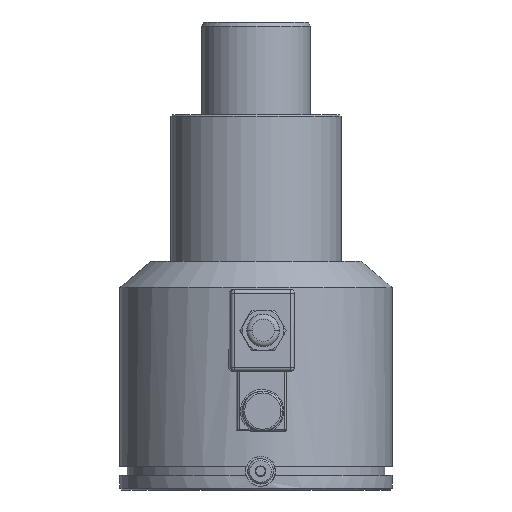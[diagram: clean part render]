
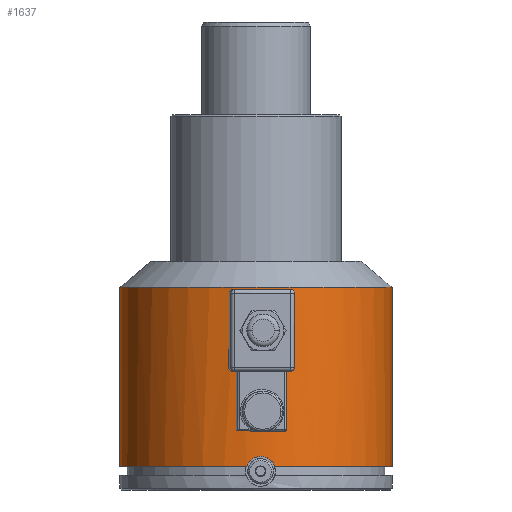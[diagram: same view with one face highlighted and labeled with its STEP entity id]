
A CAD part, front view. The second image highlights one B-rep face of the part: STEP entity #1637.
In plain terms, the highlighted cylindrical face has radius 75 mm (diameter 150 mm), a partial arc.
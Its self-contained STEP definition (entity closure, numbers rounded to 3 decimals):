
#85=CARTESIAN_POINT('Axis2P3D Location',(0.,0.,-9.)) ;
#277=CARTESIAN_POINT('Line Origine',(-75.,0.,-15.5)) ;
#281=CARTESIAN_POINT('Vertex',(-75.,0.,-18.)) ;
#283=CARTESIAN_POINT('Vertex',(-75.,0.,80.735)) ;
#290=CARTESIAN_POINT('Vertex',(75.,0.,80.735)) ;
#293=CARTESIAN_POINT('Line Origine',(75.,0.,-15.5)) ;
#297=CARTESIAN_POINT('Vertex',(75.,0.,-18.)) ;
#318=CARTESIAN_POINT('Control Point',(-10.976,-74.192,64.191)) ;
#319=CARTESIAN_POINT('Control Point',(-9.634,-74.391,66.636)) ;
#320=CARTESIAN_POINT('Control Point',(-7.726,-74.642,68.765)) ;
#321=CARTESIAN_POINT('Control Point',(-5.352,-74.879,70.413)) ;
#322=CARTESIAN_POINT('Control Point',(-0.627,-75.099,72.249)) ;
#323=CARTESIAN_POINT('Control Point',(4.385,-74.92,72.078)) ;
#324=CARTESIAN_POINT('Control Point',(6.52,-74.759,71.61)) ;
#325=CARTESIAN_POINT('Control Point',(10.998,-74.261,69.736)) ;
#326=CARTESIAN_POINT('Control Point',(14.429,-73.632,66.266)) ;
#327=CARTESIAN_POINT('Control Point',(15.874,-73.309,63.946)) ;
#328=CARTESIAN_POINT('Control Point',(17.377,-72.961,59.586)) ;
#329=CARTESIAN_POINT('Control Point',(17.208,-72.999,55.023)) ;
#330=CARTESIAN_POINT('Control Point',(16.85,-73.085,53.179)) ;
#331=CARTESIAN_POINT('Control Point',(16.218,-73.231,51.425)) ;
#332=CARTESIAN_POINT('Control Point',(15.34,-73.415,49.809)) ;
#333=CARTESIAN_POINT('Vertex',(-10.976,-74.192,64.191)) ;
#335=CARTESIAN_POINT('Vertex',(15.34,-73.415,49.809)) ;
#365=CARTESIAN_POINT('Control Point',(15.34,-73.415,49.809)) ;
#366=CARTESIAN_POINT('Control Point',(14.012,-73.692,47.364)) ;
#367=CARTESIAN_POINT('Control Point',(12.122,-74.056,45.235)) ;
#368=CARTESIAN_POINT('Control Point',(9.766,-74.432,43.587)) ;
#369=CARTESIAN_POINT('Control Point',(5.062,-74.93,41.751)) ;
#370=CARTESIAN_POINT('Control Point',(0.048,-75.048,41.922)) ;
#371=CARTESIAN_POINT('Control Point',(-2.092,-75.013,42.39)) ;
#372=CARTESIAN_POINT('Control Point',(-6.592,-74.781,44.264)) ;
#373=CARTESIAN_POINT('Control Point',(-10.054,-74.356,47.734)) ;
#374=CARTESIAN_POINT('Control Point',(-11.515,-74.119,50.054)) ;
#375=CARTESIAN_POINT('Control Point',(-13.036,-73.86,54.414)) ;
#376=CARTESIAN_POINT('Control Point',(-12.866,-73.888,58.977)) ;
#377=CARTESIAN_POINT('Control Point',(-12.503,-73.953,60.821)) ;
#378=CARTESIAN_POINT('Control Point',(-11.863,-74.061,62.575)) ;
#379=CARTESIAN_POINT('Control Point',(-10.976,-74.192,64.191)) ;
#1525=CARTESIAN_POINT('Axis2P3D Location',(0.,0.,80.735)) ;
#1588=CARTESIAN_POINT('Axis2P3D Location',(0.,0.,-18.)) ;
#1592=CARTESIAN_POINT('Vertex',(10.353,-74.282,-18.)) ;
#1595=CARTESIAN_POINT('Axis2P3D Location',(0.,0.,-18.)) ;
#1599=CARTESIAN_POINT('Vertex',(-5.229,-74.817,-18.)) ;
#1603=CARTESIAN_POINT('Control Point',(-5.229,-74.817,-18.)) ;
#1604=CARTESIAN_POINT('Control Point',(-5.079,-74.828,-17.567)) ;
#1605=CARTESIAN_POINT('Control Point',(-4.892,-74.841,-17.147)) ;
#1606=CARTESIAN_POINT('Control Point',(-4.672,-74.854,-16.745)) ;
#1607=CARTESIAN_POINT('Vertex',(-4.672,-74.854,-16.745)) ;
#1611=CARTESIAN_POINT('Control Point',(10.353,-74.282,-18.)) ;
#1612=CARTESIAN_POINT('Control Point',(10.108,-74.316,-17.29)) ;
#1613=CARTESIAN_POINT('Control Point',(9.783,-74.36,-16.608)) ;
#1614=CARTESIAN_POINT('Control Point',(9.381,-74.413,-15.967)) ;
#1615=CARTESIAN_POINT('Control Point',(7.968,-74.586,-14.196)) ;
#1616=CARTESIAN_POINT('Control Point',(6.013,-74.777,-12.972)) ;
#1617=CARTESIAN_POINT('Control Point',(4.538,-74.887,-12.47)) ;
#1618=CARTESIAN_POINT('Control Point',(1.416,-75.025,-12.174)) ;
#1619=CARTESIAN_POINT('Control Point',(-1.527,-75.006,-13.284)) ;
#1620=CARTESIAN_POINT('Control Point',(-2.859,-74.958,-14.196)) ;
#1621=CARTESIAN_POINT('Control Point',(-3.926,-74.901,-15.382)) ;
#1622=CARTESIAN_POINT('Control Point',(-4.672,-74.854,-16.745)) ;
#86=DIRECTION('Axis2P3D Direction',(0.,0.,-1.)) ;
#87=DIRECTION('Axis2P3D XDirection',(1.,0.,0.)) ;
#278=DIRECTION('Vector Direction',(0.,0.,-1.)) ;
#294=DIRECTION('Vector Direction',(0.,0.,-1.)) ;
#1526=DIRECTION('Axis2P3D Direction',(0.,0.,1.)) ;
#1589=DIRECTION('Axis2P3D Direction',(0.,0.,-1.)) ;
#1596=DIRECTION('Axis2P3D Direction',(0.,0.,-1.)) ;
#88=AXIS2_PLACEMENT_3D('Cylinder Axis2P3D',#85,#86,#87) ;
#1527=AXIS2_PLACEMENT_3D('Circle Axis2P3D',#1525,#1526,$) ;
#1590=AXIS2_PLACEMENT_3D('Circle Axis2P3D',#1588,#1589,$) ;
#1597=AXIS2_PLACEMENT_3D('Circle Axis2P3D',#1595,#1596,$) ;
#1625=ORIENTED_EDGE('',*,*,#1594,.F.) ;
#1626=ORIENTED_EDGE('',*,*,#299,.T.) ;
#1627=ORIENTED_EDGE('',*,*,#1529,.F.) ;
#1628=ORIENTED_EDGE('',*,*,#285,.F.) ;
#1629=ORIENTED_EDGE('',*,*,#1601,.F.) ;
#1630=ORIENTED_EDGE('',*,*,#1609,.T.) ;
#1631=ORIENTED_EDGE('',*,*,#1623,.F.) ;
#1634=ORIENTED_EDGE('',*,*,#337,.T.) ;
#1635=ORIENTED_EDGE('',*,*,#380,.T.) ;
#1636=FACE_BOUND('',#1633,.T.) ;
#279=VECTOR('Line Direction',#278,1.) ;
#295=VECTOR('Line Direction',#294,1.) ;
#1637=ADVANCED_FACE('',(#1632,#1636),#89,.T.) ;
#317=B_SPLINE_CURVE_WITH_KNOTS('',5,(#318,#319,#320,#321,#322,#323,#324,#325,#326,#327,#328,#329,#330,#331,#332),.UNSPECIFIED.,.F.,.U.,(6,3,3,3,6),(0.,19.767,34.914,53.74,66.812),.UNSPECIFIED.) ;
#364=B_SPLINE_CURVE_WITH_KNOTS('',5,(#365,#366,#367,#368,#369,#370,#371,#372,#373,#374,#375,#376,#377,#378,#379),.UNSPECIFIED.,.F.,.U.,(6,3,3,3,6),(0.,19.767,34.914,53.74,66.812),.UNSPECIFIED.) ;
#1602=B_SPLINE_CURVE_WITH_KNOTS('',3,(#1603,#1604,#1605,#1606),.UNSPECIFIED.,.F.,.U.,(4,4),(0.,1.945),.UNSPECIFIED.) ;
#1610=B_SPLINE_CURVE_WITH_KNOTS('',5,(#1611,#1612,#1613,#1614,#1615,#1616,#1617,#1618,#1619,#1620,#1621,#1622),.UNSPECIFIED.,.F.,.U.,(6,3,3,6),(0.,5.316,15.963,26.954),.UNSPECIFIED.) ;
#1528=CIRCLE('generated circle',#1527,75.) ;
#1591=CIRCLE('generated circle',#1590,75.) ;
#1598=CIRCLE('generated circle',#1597,75.) ;
#89=CYLINDRICAL_SURFACE('generated cylinder',#88,75.) ;
#285=EDGE_CURVE('',#282,#284,#280,.F.) ;
#299=EDGE_CURVE('',#298,#291,#296,.F.) ;
#337=EDGE_CURVE('',#334,#336,#317,.T.) ;
#380=EDGE_CURVE('',#336,#334,#364,.T.) ;
#1529=EDGE_CURVE('',#284,#291,#1528,.T.) ;
#1594=EDGE_CURVE('',#298,#1593,#1591,.T.) ;
#1601=EDGE_CURVE('',#1600,#282,#1598,.T.) ;
#1609=EDGE_CURVE('',#1600,#1608,#1602,.T.) ;
#1623=EDGE_CURVE('',#1593,#1608,#1610,.T.) ;
#1624=EDGE_LOOP('',(#1625,#1626,#1627,#1628,#1629,#1630,#1631)) ;
#1633=EDGE_LOOP('',(#1634,#1635)) ;
#1632=FACE_OUTER_BOUND('',#1624,.T.) ;
#280=LINE('Line',#277,#279) ;
#296=LINE('Line',#293,#295) ;
#282=VERTEX_POINT('',#281) ;
#284=VERTEX_POINT('',#283) ;
#291=VERTEX_POINT('',#290) ;
#298=VERTEX_POINT('',#297) ;
#334=VERTEX_POINT('',#333) ;
#336=VERTEX_POINT('',#335) ;
#1593=VERTEX_POINT('',#1592) ;
#1600=VERTEX_POINT('',#1599) ;
#1608=VERTEX_POINT('',#1607) ;
